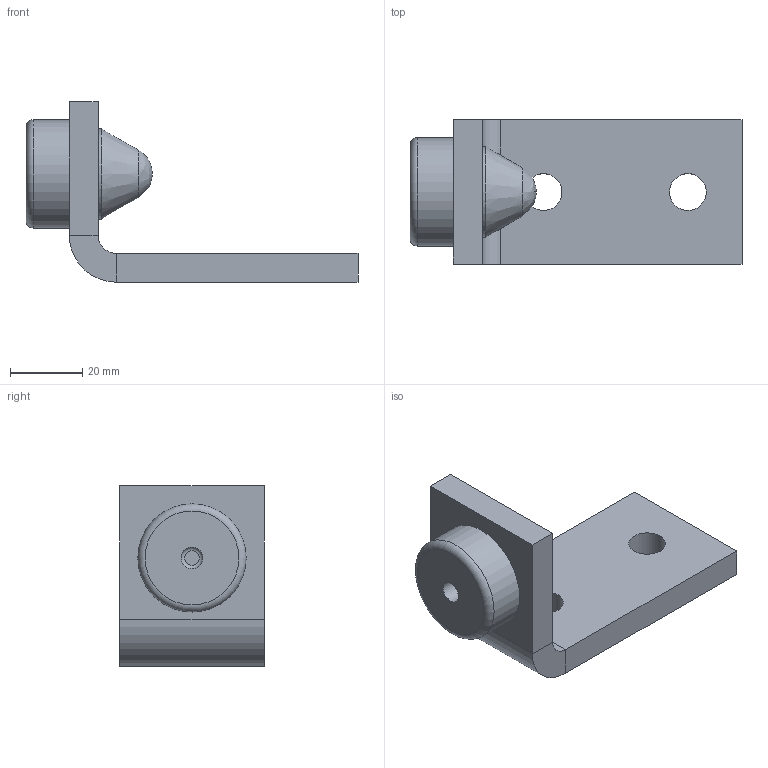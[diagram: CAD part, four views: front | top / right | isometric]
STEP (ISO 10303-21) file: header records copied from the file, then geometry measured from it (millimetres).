
FILE_DESCRIPTION(/* description */ ('Biegeteil mit Löchern'),/* implementation_level */ '2;1');
FILE_NAME(/* name */ 'Q:\sge-ma\Produktmanagement-STB\STB\Workspace\TraceParts\Winkelpuffer\010336030.stp',/* time_stamp */ '2018-03-05T07:52:37+01:00',/* author */ ('avschreier'),/* organization */ (''),/* preprocessor_version */ 'ST-DEVELOPER v16.1',/* originating_system */ 'Autodesk Inventor 2016',/* authorisation */ '');
FILE_SCHEMA (('CONFIG_CONTROL_DESIGN'));
Length unit declared in the file: millimetre
Products named in the file (3): 337000231; 004203020; 010336030
Assembly tree (2 placements, depth 2):
  010336030
    337000231
    004203020
Bounding box: 92 x 40 x 50 mm (x, y, z)
Volume: 48095.8 mm3; surface area: 16050.4 mm2
Topology: 2 solids, 2 shells, 31 faces, 61 edges, 37 vertices
Faces by surface type: plane 17, cylinder 9, torus 3, cone 1, bspline 1
Full cylindrical faces by diameter (mm): 6 x1, 10.2 x2, 22 x2, 25 x1, 30 x1
Entity records: 842 total; most frequent: CARTESIAN_POINT 151, DIRECTION 144, ORIENTED_EDGE 100, AXIS2_PLACEMENT_3D 60, EDGE_LOOP 51, EDGE_CURVE 50, VERTEX_POINT 37, FACE_OUTER_BOUND 31
